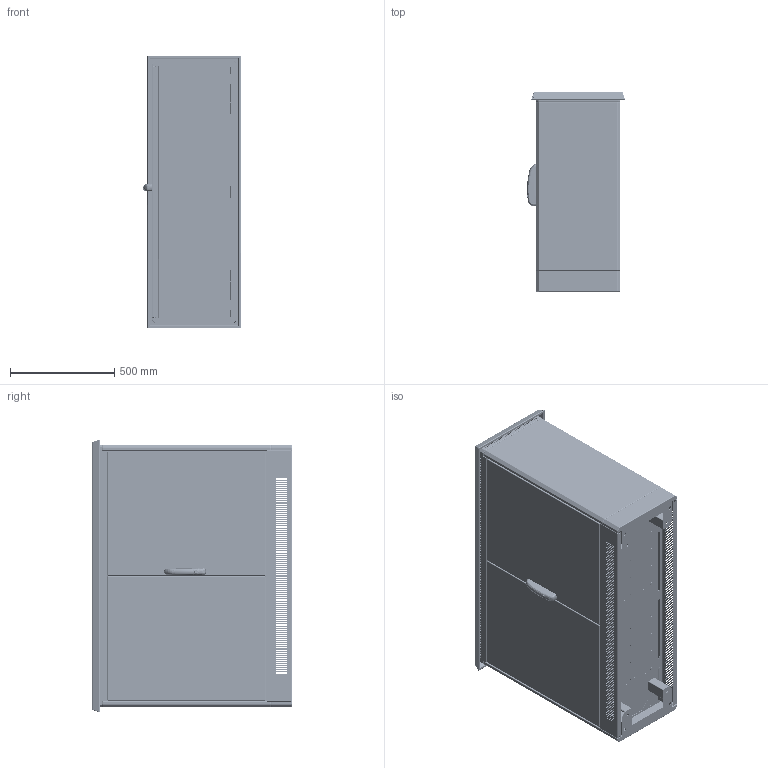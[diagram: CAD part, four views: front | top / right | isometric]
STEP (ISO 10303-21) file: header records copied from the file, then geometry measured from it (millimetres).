
FILE_DESCRIPTION (( 'STEP AP203' ), '1' );
FILE_NAME ('EVIS120804SA.STEP', '2021-03-15T14:34:07', ( '' ), ( '' ), 'SwSTEP 2.0', 'SolidWorks 2019', '' );
FILE_SCHEMA (( 'CONFIG_CONTROL_DESIGN' ));
Length unit declared in the file: millimetre
Products named in the file (9): EVIS120804SA; AR_ENUX_nuova_maniglia_mesan; AR_E-VIS_struttura_SASM_1200x0800x0400; AR_E-VIS_Assieme porta IB_DA_1200X0800; AR_Tetto E-VIS_SA_1200x0400; AR_E-VIS_Retro_EVPA_1200x0800; AR_E-VIS_Zoccolo SA_1200x0400_areata; AR_E-VIS_Porta IB 2.0_DA_1200x0800; AR_E-VIS_Porta CB 2.0_DA_1200x0800
Assembly tree (8 placements, depth 3):
  EVIS120804SA
    AR_E-VIS_struttura_SASM_1200x0800x0400
    AR_Tetto E-VIS_SA_1200x0400
    AR_E-VIS_Retro_EVPA_1200x0800
    AR_E-VIS_Porta CB 2.0_DA_1200x0800
    AR_E-VIS_Assieme porta IB_DA_1200X0800
      AR_E-VIS_Porta IB 2.0_DA_1200x0800
      AR_ENUX_nuova_maniglia_mesan
    AR_E-VIS_Zoccolo SA_1200x0400_areata
Bounding box: 469.71 x 956.34 x 1307.9 mm (x, y, z)
Volume: 15582342.5 mm3; surface area: 14334517 mm2
Topology: 11 solids, 11 shells, 5403 faces, 15425 edges, 9967 vertices
Faces by surface type: cylinder 2661, plane 2485, sphere 142, cone 46, bspline 41, torus 28
Entity records: 184515 total; most frequent: CARTESIAN_POINT 35377, DIRECTION 31263, ORIENTED_EDGE 30538, EDGE_CURVE 15269, AXIS2_PLACEMENT_3D 10774, VERTEX_POINT 9967, LINE 9715, VECTOR 9715
